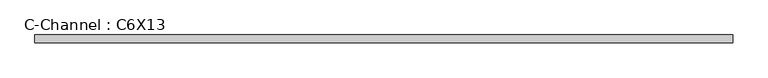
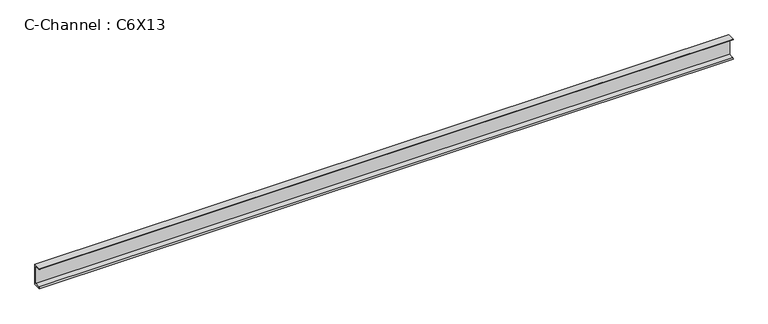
"""IFC4 building model written with IfcOpenShell, lengths in millimetres: beam geometry, C-Channel : C6X13."""

from ifc_helpers import new_model, si_unit, point, frame, frame_2d, origin, place, context, project, spatial, polyline, circle_curve, trimmed, segment, composite_curve, outline, extrude, source, transform, mapped, element, save


def c_channel_c6x13_c106f19a(model_context):
    return source(origin(), model_context, "Body", "SweptSolid", [
        extrude(outline(composite_curve([segment(polyline([(13.0556, 76.2), (13.0556, -76.2), (-41.8084, -76.2)]), True, "CONTINUOUS"), segment(trimmed(circle_curve(frame_2d((-33.0962, -76.2)), 8.7122), [point((-41.8084, -76.2))], [point((-33.0962, -67.4878))], False, "CARTESIAN"), True, "CONTINUOUS"), segment(polyline([(-33.0962, -67.4878), (1.9558, -61.9361086), (1.9558, 61.9361086), (-33.0962, 67.4878)]), True, "CONTINUOUS"), segment(trimmed(circle_curve(frame_2d((-33.0962, 76.2)), 8.7122), [point((-33.0962, 67.4878))], [point((-41.8084, 76.2))], False, "CARTESIAN"), True, "CONTINUOUS"), segment(polyline([(-41.8084, 76.2), (13.0556, 76.2)]), True, "CONTINUOUS")], self_intersect=False)), frame((-2487.3009793, 0.0, 0.0), z_axis=(1.0, 0.0, 0.0), x_axis=(0.0, 1.0, 0.0)), (0.0, 0.0, 1.0), 4974.5876814),
    ])


if __name__ == "__main__":
    model = new_model("IFC4")
    model_context = context("Model", 3, world=origin())
    ifc_project = project(units=[si_unit("LENGTHUNIT", "METRE", prefix="MILLI")], contexts=[model_context])
    site = spatial("IfcSite", under=ifc_project)
    building = spatial("IfcBuilding", under=site)
    placement = place(None, origin())
    c_channel_c6x13_shape = c_channel_c6x13_c106f19a(model_context)
    element("IfcBeam", 1, ObjectType="C-Channel : C6X13", at=placement, inside=building, context=model_context, shape_type="MappedRepresentation", body=[
        mapped(c_channel_c6x13_shape, transform((0.0, 0.0, 0.0), x_axis=(1.0, 0.0, 0.0), y_axis=(0.0, 1.0, 0.0), z_axis=(0.0, 0.0, 1.0))),
    ])
    save(model, "model.ifc")
